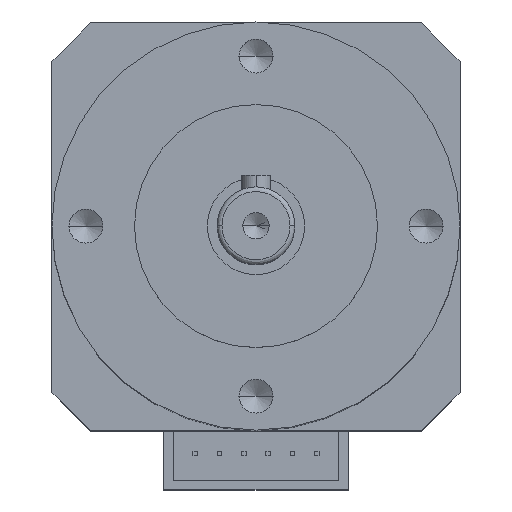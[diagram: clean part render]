
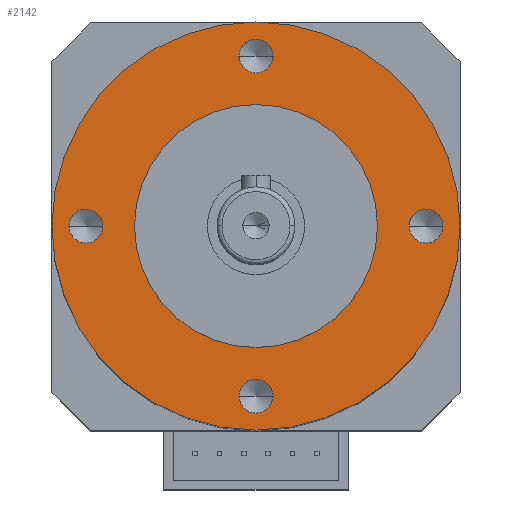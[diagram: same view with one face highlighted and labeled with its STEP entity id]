
A CAD part, top view. The second image highlights one B-rep face of the part: STEP entity #2142.
In plain terms, the highlighted planar face has unit normal (0, 0, 1).
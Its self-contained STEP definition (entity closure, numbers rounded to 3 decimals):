
#56 = AXIS2_PLACEMENT_3D ( 'NONE', #3298, #2043, #667 ) ;
#58 = CIRCLE ( 'NONE', #1191, 21. ) ;
#83 = EDGE_CURVE ( 'NONE', #624, #713, #2353, .T. ) ;
#126 = EDGE_LOOP ( 'NONE', ( #2447, #2012 ) ) ;
#187 = EDGE_CURVE ( 'NONE', #975, #604, #3509, .T. ) ;
#191 = DIRECTION ( 'NONE',  ( 0., 0., 1. ) ) ;
#213 = DIRECTION ( 'NONE',  ( -1., 0., 0. ) ) ;
#236 = CARTESIAN_POINT ( 'NONE',  ( -21., 0., 0. ) ) ;
#238 = AXIS2_PLACEMENT_3D ( 'NONE', #1302, #3487, #2894 ) ;
#239 = CARTESIAN_POINT ( 'NONE',  ( 0., -17.5, 0. ) ) ;
#253 = AXIS2_PLACEMENT_3D ( 'NONE', #2323, #191, #3148 ) ;
#289 = VERTEX_POINT ( 'NONE', #236 ) ;
#297 = DIRECTION ( 'NONE',  ( -1., 0., 0. ) ) ;
#350 = ORIENTED_EDGE ( 'NONE', *, *, #2020, .F. ) ;
#382 = AXIS2_PLACEMENT_3D ( 'NONE', #1332, #804, #2942 ) ;
#420 = DIRECTION ( 'NONE',  ( 0., 0., 1. ) ) ;
#423 = AXIS2_PLACEMENT_3D ( 'NONE', #1789, #427, #2865 ) ;
#427 = DIRECTION ( 'NONE',  ( 0., 0., 1. ) ) ;
#436 = CARTESIAN_POINT ( 'NONE',  ( 0., 0., 0. ) ) ;
#444 = ORIENTED_EDGE ( 'NONE', *, *, #83, .F. ) ;
#473 = EDGE_LOOP ( 'NONE', ( #350, #1079 ) ) ;
#486 = CIRCLE ( 'NONE', #3323, 12.5 ) ;
#564 = FACE_BOUND ( 'NONE', #1469, .T. ) ;
#588 = CARTESIAN_POINT ( 'NONE',  ( 0., 0., 0. ) ) ;
#591 = AXIS2_PLACEMENT_3D ( 'NONE', #1089, #1383, #2436 ) ;
#604 = VERTEX_POINT ( 'NONE', #3505 ) ;
#624 = VERTEX_POINT ( 'NONE', #2957 ) ;
#667 = DIRECTION ( 'NONE',  ( -1., 0., 0. ) ) ;
#691 = EDGE_LOOP ( 'NONE', ( #444, #1054 ) ) ;
#713 = VERTEX_POINT ( 'NONE', #3379 ) ;
#763 = CARTESIAN_POINT ( 'NONE',  ( 17.5, 0., 0. ) ) ;
#789 = DIRECTION ( 'NONE',  ( 0., 0., 1. ) ) ;
#804 = DIRECTION ( 'NONE',  ( 0., 0., 1. ) ) ;
#811 = EDGE_LOOP ( 'NONE', ( #3354, #2627 ) ) ;
#816 = DIRECTION ( 'NONE',  ( -1., 0., 0. ) ) ;
#900 = FACE_BOUND ( 'NONE', #126, .T. ) ;
#975 = VERTEX_POINT ( 'NONE', #2371 ) ;
#1013 = CARTESIAN_POINT ( 'NONE',  ( 21., 0., 0. ) ) ;
#1017 = EDGE_CURVE ( 'NONE', #2918, #2118, #2725, .T. ) ;
#1054 = ORIENTED_EDGE ( 'NONE', *, *, #1243, .F. ) ;
#1079 = ORIENTED_EDGE ( 'NONE', *, *, #1017, .F. ) ;
#1089 = CARTESIAN_POINT ( 'NONE',  ( 0., 0., 0. ) ) ;
#1092 = ORIENTED_EDGE ( 'NONE', *, *, #187, .F. ) ;
#1144 = CIRCLE ( 'NONE', #591, 21. ) ;
#1149 = ORIENTED_EDGE ( 'NONE', *, *, #1899, .F. ) ;
#1191 = AXIS2_PLACEMENT_3D ( 'NONE', #588, #3261, #2974 ) ;
#1215 = EDGE_CURVE ( 'NONE', #3227, #2976, #1549, .T. ) ;
#1243 = EDGE_CURVE ( 'NONE', #713, #624, #2088, .T. ) ;
#1272 = EDGE_CURVE ( 'NONE', #2976, #3227, #1891, .T. ) ;
#1296 = EDGE_CURVE ( 'NONE', #1842, #1826, #1416, .T. ) ;
#1302 = CARTESIAN_POINT ( 'NONE',  ( -17.5, 0., 0. ) ) ;
#1332 = CARTESIAN_POINT ( 'NONE',  ( 0., 0., 0. ) ) ;
#1383 = DIRECTION ( 'NONE',  ( 0., 0., -1. ) ) ;
#1416 = CIRCLE ( 'NONE', #382, 12.5 ) ;
#1431 = CARTESIAN_POINT ( 'NONE',  ( 1.75, 17.5, 0. ) ) ;
#1469 = EDGE_LOOP ( 'NONE', ( #1092, #2397 ) ) ;
#1493 = PLANE ( 'NONE',  #56 ) ;
#1549 = CIRCLE ( 'NONE', #3301, 1.75 ) ;
#1592 = DIRECTION ( 'NONE',  ( 0., 0., 1. ) ) ;
#1606 = DIRECTION ( 'NONE',  ( 0., 0., 1. ) ) ;
#1789 = CARTESIAN_POINT ( 'NONE',  ( -17.5, 0., 0. ) ) ;
#1792 = FACE_BOUND ( 'NONE', #473, .T. ) ;
#1826 = VERTEX_POINT ( 'NONE', #2022 ) ;
#1836 = CARTESIAN_POINT ( 'NONE',  ( 1.75, -17.5, 0. ) ) ;
#1842 = VERTEX_POINT ( 'NONE', #1983 ) ;
#1861 = CARTESIAN_POINT ( 'NONE',  ( 0., 17.5, 0. ) ) ;
#1891 = CIRCLE ( 'NONE', #2008, 1.75 ) ;
#1899 = EDGE_CURVE ( 'NONE', #1826, #1842, #486, .T. ) ;
#1939 = VERTEX_POINT ( 'NONE', #1013 ) ;
#1983 = CARTESIAN_POINT ( 'NONE',  ( 12.5, 0., 0. ) ) ;
#2008 = AXIS2_PLACEMENT_3D ( 'NONE', #2977, #2432, #297 ) ;
#2012 = ORIENTED_EDGE ( 'NONE', *, *, #1215, .F. ) ;
#2020 = EDGE_CURVE ( 'NONE', #2118, #2918, #2414, .T. ) ;
#2022 = CARTESIAN_POINT ( 'NONE',  ( -12.5, 0., 0. ) ) ;
#2043 = DIRECTION ( 'NONE',  ( 0., 0., -1. ) ) ;
#2079 = FACE_OUTER_BOUND ( 'NONE', #811, .T. ) ;
#2088 = CIRCLE ( 'NONE', #3493, 1.75 ) ;
#2094 = CARTESIAN_POINT ( 'NONE',  ( -1.75, 17.5, 0. ) ) ;
#2117 = CIRCLE ( 'NONE', #238, 1.75 ) ;
#2118 = VERTEX_POINT ( 'NONE', #3499 ) ;
#2125 = EDGE_LOOP ( 'NONE', ( #1149, #2237 ) ) ;
#2136 = CARTESIAN_POINT ( 'NONE',  ( 0., -17.5, 0. ) ) ;
#2142 = ADVANCED_FACE ( 'NONE', ( #2410, #564, #900, #3349, #1792, #2079 ), #1493, .F. ) ;
#2211 = AXIS2_PLACEMENT_3D ( 'NONE', #2136, #1606, #816 ) ;
#2237 = ORIENTED_EDGE ( 'NONE', *, *, #1296, .F. ) ;
#2256 = EDGE_CURVE ( 'NONE', #604, #975, #2117, .T. ) ;
#2302 = DIRECTION ( 'NONE',  ( -1., 0., 0. ) ) ;
#2323 = CARTESIAN_POINT ( 'NONE',  ( 17.5, 0., 0. ) ) ;
#2345 = EDGE_CURVE ( 'NONE', #289, #1939, #1144, .T. ) ;
#2353 = CIRCLE ( 'NONE', #253, 1.75 ) ;
#2371 = CARTESIAN_POINT ( 'NONE',  ( -19.25, 0., 0. ) ) ;
#2397 = ORIENTED_EDGE ( 'NONE', *, *, #2256, .F. ) ;
#2410 = FACE_BOUND ( 'NONE', #2125, .T. ) ;
#2414 = CIRCLE ( 'NONE', #2211, 1.75 ) ;
#2432 = DIRECTION ( 'NONE',  ( 0., 0., 1. ) ) ;
#2436 = DIRECTION ( 'NONE',  ( -1., 0., 0. ) ) ;
#2447 = ORIENTED_EDGE ( 'NONE', *, *, #1272, .F. ) ;
#2627 = ORIENTED_EDGE ( 'NONE', *, *, #2345, .F. ) ;
#2630 = DIRECTION ( 'NONE',  ( 0., 0., 1. ) ) ;
#2725 = CIRCLE ( 'NONE', #3418, 1.75 ) ;
#2865 = DIRECTION ( 'NONE',  ( -1., 0., 0. ) ) ;
#2894 = DIRECTION ( 'NONE',  ( -1., 0., 0. ) ) ;
#2918 = VERTEX_POINT ( 'NONE', #1836 ) ;
#2942 = DIRECTION ( 'NONE',  ( -1., 0., 0. ) ) ;
#2957 = CARTESIAN_POINT ( 'NONE',  ( 15.75, 0., 0. ) ) ;
#2974 = DIRECTION ( 'NONE',  ( -1., 0., 0. ) ) ;
#2976 = VERTEX_POINT ( 'NONE', #2094 ) ;
#2977 = CARTESIAN_POINT ( 'NONE',  ( 0., 17.5, 0. ) ) ;
#2991 = EDGE_CURVE ( 'NONE', #1939, #289, #58, .T. ) ;
#3148 = DIRECTION ( 'NONE',  ( -1., 0., 0. ) ) ;
#3227 = VERTEX_POINT ( 'NONE', #1431 ) ;
#3261 = DIRECTION ( 'NONE',  ( 0., 0., -1. ) ) ;
#3298 = CARTESIAN_POINT ( 'NONE',  ( -21., -21., 0. ) ) ;
#3301 = AXIS2_PLACEMENT_3D ( 'NONE', #1861, #789, #213 ) ;
#3323 = AXIS2_PLACEMENT_3D ( 'NONE', #436, #420, #2302 ) ;
#3349 = FACE_BOUND ( 'NONE', #691, .T. ) ;
#3354 = ORIENTED_EDGE ( 'NONE', *, *, #2991, .F. ) ;
#3379 = CARTESIAN_POINT ( 'NONE',  ( 19.25, 0., 0. ) ) ;
#3418 = AXIS2_PLACEMENT_3D ( 'NONE', #239, #1592, #3490 ) ;
#3448 = DIRECTION ( 'NONE',  ( -1., 0., 0. ) ) ;
#3487 = DIRECTION ( 'NONE',  ( 0., 0., 1. ) ) ;
#3490 = DIRECTION ( 'NONE',  ( -1., 0., 0. ) ) ;
#3493 = AXIS2_PLACEMENT_3D ( 'NONE', #763, #2630, #3448 ) ;
#3499 = CARTESIAN_POINT ( 'NONE',  ( -1.75, -17.5, 0. ) ) ;
#3505 = CARTESIAN_POINT ( 'NONE',  ( -15.75, 0., 0. ) ) ;
#3509 = CIRCLE ( 'NONE', #423, 1.75 ) ;
